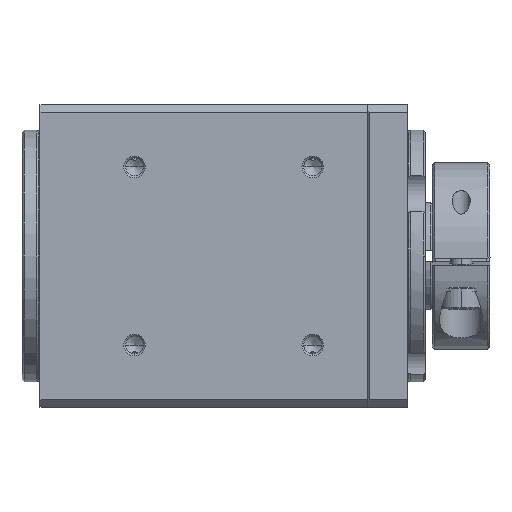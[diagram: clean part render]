
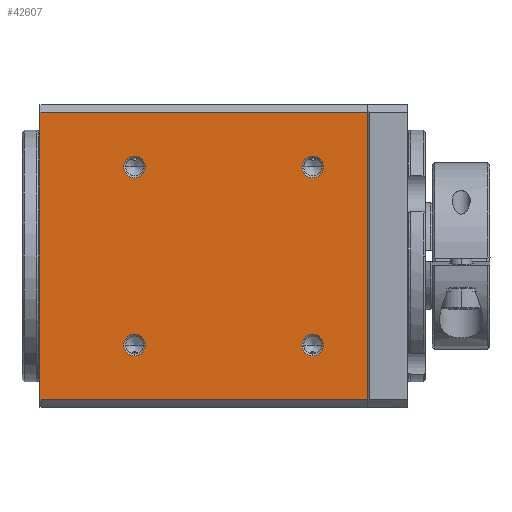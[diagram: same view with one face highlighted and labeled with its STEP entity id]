
A CAD part, left-side view. The second image highlights one B-rep face of the part: STEP entity #42607.
In plain terms, the highlighted planar face has unit normal (-1, 0, 0).
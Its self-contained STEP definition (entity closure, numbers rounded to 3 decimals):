
#135 = AXIS2_PLACEMENT_3D ( 'NONE', #30163, #30165, #30166 ) ;
#1638 = ORIENTED_EDGE ( 'NONE', *, *, #54242, .T. ) ;
#1640 = ORIENTED_EDGE ( 'NONE', *, *, #43006, .T. ) ;
#1642 = ORIENTED_EDGE ( 'NONE', *, *, #54248, .T. ) ;
#1643 = ORIENTED_EDGE ( 'NONE', *, *, #43003, .T. ) ;
#1645 = ORIENTED_EDGE ( 'NONE', *, *, #54256, .T. ) ;
#1647 = ORIENTED_EDGE ( 'NONE', *, *, #42999, .T. ) ;
#1648 = ORIENTED_EDGE ( 'NONE', *, *, #51962, .T. ) ;
#1649 = ORIENTED_EDGE ( 'NONE', *, *, #42992, .T. ) ;
#1650 = ORIENTED_EDGE ( 'NONE', *, *, #43056, .F. ) ;
#1651 = ORIENTED_EDGE ( 'NONE', *, *, #42978, .T. ) ;
#1653 = ORIENTED_EDGE ( 'NONE', *, *, #42934, .T. ) ;
#1655 = ORIENTED_EDGE ( 'NONE', *, *, #42967, .T. ) ;
#2452 = VERTEX_POINT ( 'NONE', #59209 ) ;
#7019 = EDGE_LOOP ( 'NONE', ( #1645, #1647 ) ) ;
#7033 = EDGE_LOOP ( 'NONE', ( #1648, #1649 ) ) ;
#7035 = EDGE_LOOP ( 'NONE', ( #1638, #1640 ) ) ;
#7037 = EDGE_LOOP ( 'NONE', ( #1642, #1643 ) ) ;
#7039 = EDGE_LOOP ( 'NONE', ( #1650, #1651, #1653, #1655 ) ) ;
#10335 = VECTOR ( 'NONE', #30786, 1000. ) ;
#10388 = VECTOR ( 'NONE', #30898, 1000. ) ;
#10405 = VECTOR ( 'NONE', #30918, 1000. ) ;
#10411 = AXIS2_PLACEMENT_3D ( 'NONE', #30962, #30963, #30964 ) ;
#10413 = CIRCLE ( 'NONE', #10420, 1.5 ) ;
#10420 = AXIS2_PLACEMENT_3D ( 'NONE', #30940, #30941, #30942 ) ;
#10422 = CIRCLE ( 'NONE', #10435, 1.5 ) ;
#10433 = CIRCLE ( 'NONE', #10411, 1.5 ) ;
#10435 = AXIS2_PLACEMENT_3D ( 'NONE', #30952, #30953, #30954 ) ;
#10446 = AXIS2_PLACEMENT_3D ( 'NONE', #30958, #30959, #30960 ) ;
#10448 = CIRCLE ( 'NONE', #10446, 1.5 ) ;
#10526 = VECTOR ( 'NONE', #31063, 1000. ) ;
#15274 = CARTESIAN_POINT ( 'NONE',  ( -60.651, -10.294, -28.87 ) ) ;
#15310 = CARTESIAN_POINT ( 'NONE',  ( -60.651, 35.206, 11.13 ) ) ;
#15322 = CARTESIAN_POINT ( 'NONE',  ( -60.651, -10.294, 11.13 ) ) ;
#15326 = CARTESIAN_POINT ( 'NONE',  ( -60.651, 35.206, -28.87 ) ) ;
#16458 = VERTEX_POINT ( 'NONE', #15274 ) ;
#16466 = VERTEX_POINT ( 'NONE', #15310 ) ;
#16492 = VERTEX_POINT ( 'NONE', #15322 ) ;
#16500 = VERTEX_POINT ( 'NONE', #15326 ) ;
#30155 = FACE_BOUND ( 'NONE', #7019, .T. ) ;
#30156 = FACE_BOUND ( 'NONE', #7033, .T. ) ;
#30157 = FACE_BOUND ( 'NONE', #7035, .T. ) ;
#30158 = FACE_BOUND ( 'NONE', #7037, .T. ) ;
#30159 = FACE_OUTER_BOUND ( 'NONE', #7039, .T. ) ;
#30163 = CARTESIAN_POINT ( 'NONE',  ( -60.651, -10.294, -28.87 ) ) ;
#30164 = PLANE ( 'NONE',  #135 ) ;
#30165 = DIRECTION ( 'NONE',  ( -1., 0., 0. ) ) ;
#30166 = DIRECTION ( 'NONE',  ( 0., 0., 1. ) ) ;
#30784 = LINE ( 'NONE', #30785, #10335 ) ;
#30785 = CARTESIAN_POINT ( 'NONE',  ( -60.651, -10.294, -8.87 ) ) ;
#30786 = DIRECTION ( 'NONE',  ( 0., 0., 1. ) ) ;
#30896 = LINE ( 'NONE', #30897, #10388 ) ;
#30897 = CARTESIAN_POINT ( 'NONE',  ( -60.651, 12.456, 11.13 ) ) ;
#30898 = DIRECTION ( 'NONE',  ( 0., 1., 0. ) ) ;
#30909 = LINE ( 'NONE', #30910, #10405 ) ;
#30910 = CARTESIAN_POINT ( 'NONE',  ( -60.651, 12.456, -28.87 ) ) ;
#30918 = DIRECTION ( 'NONE',  ( 0., -1., 0. ) ) ;
#30940 = CARTESIAN_POINT ( 'NONE',  ( -60.651, 22.081, -21.244 ) ) ;
#30941 = DIRECTION ( 'NONE',  ( 1., 0., 0. ) ) ;
#30942 = DIRECTION ( 'NONE',  ( 0., -1., 0. ) ) ;
#30952 = CARTESIAN_POINT ( 'NONE',  ( -60.651, 22.081, 3.505 ) ) ;
#30953 = DIRECTION ( 'NONE',  ( 1., 0., 0. ) ) ;
#30954 = DIRECTION ( 'NONE',  ( 0., -1., 0. ) ) ;
#30958 = CARTESIAN_POINT ( 'NONE',  ( -60.651, -2.668, 3.505 ) ) ;
#30959 = DIRECTION ( 'NONE',  ( 1., 0., 0. ) ) ;
#30960 = DIRECTION ( 'NONE',  ( 0., -1., 0. ) ) ;
#30962 = CARTESIAN_POINT ( 'NONE',  ( -60.651, -2.668, -21.244 ) ) ;
#30963 = DIRECTION ( 'NONE',  ( 1., 0., 0. ) ) ;
#30964 = DIRECTION ( 'NONE',  ( 0., -1., 0. ) ) ;
#31061 = LINE ( 'NONE', #31062, #10526 ) ;
#31062 = CARTESIAN_POINT ( 'NONE',  ( -60.651, 35.206, -8.87 ) ) ;
#31063 = DIRECTION ( 'NONE',  ( 0., 0., 1. ) ) ;
#42607 = ADVANCED_FACE ( 'NONE', ( #30157, #30158, #30155, #30156, #30159 ), #30164, .T. ) ;
#42934 = EDGE_CURVE ( 'NONE', #16458, #16492, #30784, .T. ) ;
#42967 = EDGE_CURVE ( 'NONE', #16492, #16466, #30896, .T. ) ;
#42978 = EDGE_CURVE ( 'NONE', #16500, #16458, #30909, .T. ) ;
#42992 = EDGE_CURVE ( 'NONE', #54287, #54286, #10413, .T. ) ;
#42999 = EDGE_CURVE ( 'NONE', #54283, #54282, #10422, .T. ) ;
#43003 = EDGE_CURVE ( 'NONE', #54279, #54278, #10448, .T. ) ;
#43006 = EDGE_CURVE ( 'NONE', #54275, #2452, #10433, .T. ) ;
#43056 = EDGE_CURVE ( 'NONE', #16500, #16466, #31061, .T. ) ;
#44256 = CARTESIAN_POINT ( 'NONE',  ( -60.651, 22.081, -21.244 ) ) ;
#44257 = DIRECTION ( 'NONE',  ( 1., 0., 0. ) ) ;
#44258 = DIRECTION ( 'NONE',  ( 0., -1., 0. ) ) ;
#45067 = CARTESIAN_POINT ( 'NONE',  ( -60.651, -2.668, -21.244 ) ) ;
#45068 = DIRECTION ( 'NONE',  ( 1., 0., 0. ) ) ;
#45069 = DIRECTION ( 'NONE',  ( 0., -1., 0. ) ) ;
#45201 = CARTESIAN_POINT ( 'NONE',  ( -60.651, -2.668, 3.505 ) ) ;
#45202 = DIRECTION ( 'NONE',  ( 1., 0., 0. ) ) ;
#45203 = DIRECTION ( 'NONE',  ( 0., -1., 0. ) ) ;
#45339 = CARTESIAN_POINT ( 'NONE',  ( -60.651, 22.081, 3.505 ) ) ;
#45340 = DIRECTION ( 'NONE',  ( 1., 0., 0. ) ) ;
#45341 = DIRECTION ( 'NONE',  ( 0., -1., 0. ) ) ;
#45400 = CARTESIAN_POINT ( 'NONE',  ( -60.651, -1.168, -21.244 ) ) ;
#45401 = CARTESIAN_POINT ( 'NONE',  ( -60.651, 20.581, 3.505 ) ) ;
#45411 = CARTESIAN_POINT ( 'NONE',  ( -60.651, -4.168, 3.505 ) ) ;
#45412 = CARTESIAN_POINT ( 'NONE',  ( -60.651, -1.168, 3.505 ) ) ;
#45414 = CARTESIAN_POINT ( 'NONE',  ( -60.651, 23.581, 3.505 ) ) ;
#45417 = CARTESIAN_POINT ( 'NONE',  ( -60.651, 20.581, -21.244 ) ) ;
#45418 = CARTESIAN_POINT ( 'NONE',  ( -60.651, 23.581, -21.244 ) ) ;
#48999 = CIRCLE ( 'NONE', #49001, 1.5 ) ;
#49001 = AXIS2_PLACEMENT_3D ( 'NONE', #45067, #45068, #45069 ) ;
#49005 = CIRCLE ( 'NONE', #49009, 1.5 ) ;
#49009 = AXIS2_PLACEMENT_3D ( 'NONE', #45201, #45202, #45203 ) ;
#49015 = CIRCLE ( 'NONE', #49017, 1.5 ) ;
#49017 = AXIS2_PLACEMENT_3D ( 'NONE', #45339, #45340, #45341 ) ;
#50429 = CIRCLE ( 'NONE', #50433, 1.5 ) ;
#50433 = AXIS2_PLACEMENT_3D ( 'NONE', #44256, #44257, #44258 ) ;
#51962 = EDGE_CURVE ( 'NONE', #54286, #54287, #50429, .T. ) ;
#54242 = EDGE_CURVE ( 'NONE', #2452, #54275, #48999, .T. ) ;
#54248 = EDGE_CURVE ( 'NONE', #54278, #54279, #49005, .T. ) ;
#54256 = EDGE_CURVE ( 'NONE', #54282, #54283, #49015, .T. ) ;
#54275 = VERTEX_POINT ( 'NONE', #45400 ) ;
#54278 = VERTEX_POINT ( 'NONE', #45411 ) ;
#54279 = VERTEX_POINT ( 'NONE', #45412 ) ;
#54282 = VERTEX_POINT ( 'NONE', #45401 ) ;
#54283 = VERTEX_POINT ( 'NONE', #45414 ) ;
#54286 = VERTEX_POINT ( 'NONE', #45417 ) ;
#54287 = VERTEX_POINT ( 'NONE', #45418 ) ;
#59209 = CARTESIAN_POINT ( 'NONE',  ( -60.651, -4.168, -21.244 ) ) ;
